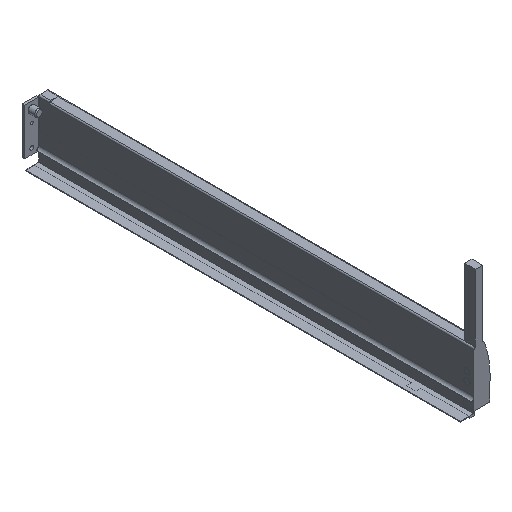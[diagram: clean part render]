
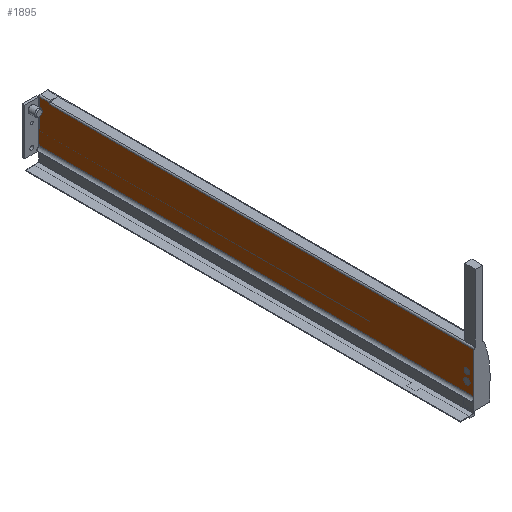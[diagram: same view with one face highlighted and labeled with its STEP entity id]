
A CAD part, isometric view. The second image highlights one B-rep face of the part: STEP entity #1895.
In plain terms, the highlighted planar face has unit normal (-1, 0, 0).
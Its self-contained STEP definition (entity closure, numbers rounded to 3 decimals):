
#25 = LINE ( 'NONE', #2200, #26 ) ;
#26 = VECTOR ( 'NONE', #2201, 1000. ) ;
#27 = EDGE_CURVE ( 'NONE', #2734, #2736, #1591, .T. ) ;
#32 = EDGE_CURVE ( 'NONE', #2732, #2735, #1597, .T. ) ;
#130 = EDGE_CURVE ( 'NONE', #2636, #2591, #1763, .T. ) ;
#178 = EDGE_CURVE ( 'NONE', #2565, #2591, #1855, .T. ) ;
#182 = EDGE_CURVE ( 'NONE', #2760, #2744, #1862, .T. ) ;
#183 = EDGE_CURVE ( 'NONE', #2760, #2565, #1864, .T. ) ;
#184 = EDGE_CURVE ( 'NONE', #2641, #2636, #1866, .T. ) ;
#185 = EDGE_CURVE ( 'NONE', #2641, #2744, #25, .T. ) ;
#186 = EDGE_CURVE ( 'NONE', #2736, #2734, #415, .T. ) ;
#187 = EDGE_CURVE ( 'NONE', #2735, #2732, #417, .T. ) ;
#264 = AXIS2_PLACEMENT_3D ( 'NONE', #2638, #2551, #2596 ) ;
#267 = AXIS2_PLACEMENT_3D ( 'NONE', #2686, #2692, #2640 ) ;
#298 = AXIS2_PLACEMENT_3D ( 'NONE', #2202, #2203, #2204 ) ;
#299 = AXIS2_PLACEMENT_3D ( 'NONE', #2205, #2206, #2207 ) ;
#347 = AXIS2_PLACEMENT_3D ( 'NONE', #2462, #2463, #2464 ) ;
#415 = CIRCLE ( 'NONE', #298, 4.1 ) ;
#417 = CIRCLE ( 'NONE', #299, 4.6 ) ;
#580 = FACE_OUTER_BOUND ( 'NONE', #1498, .T. ) ;
#581 = FACE_BOUND ( 'NONE', #1496, .T. ) ;
#582 = FACE_BOUND ( 'NONE', #1557, .T. ) ;
#856 = CARTESIAN_POINT ( 'NONE',  ( -21.5, 647., 5.395 ) ) ;
#865 = CARTESIAN_POINT ( 'NONE',  ( -21.5, 0., 5.395 ) ) ;
#890 = CARTESIAN_POINT ( 'NONE',  ( -21.5, 0., 66.06 ) ) ;
#891 = CARTESIAN_POINT ( 'NONE',  ( -21.5, 630.9, 66.06 ) ) ;
#939 = CARTESIAN_POINT ( 'NONE',  ( -21.5, 10.4, 24.6 ) ) ;
#941 = CARTESIAN_POINT ( 'NONE',  ( -21.5, 10.4, 37.1 ) ) ;
#942 = CARTESIAN_POINT ( 'NONE',  ( -21.5, 10.4, 15.4 ) ) ;
#943 = CARTESIAN_POINT ( 'NONE',  ( -21.5, 10.4, 28.9 ) ) ;
#951 = CARTESIAN_POINT ( 'NONE',  ( -21.5, 630.9, 68. ) ) ;
#967 = CARTESIAN_POINT ( 'NONE',  ( -21.5, 647., 68. ) ) ;
#1019 = ORIENTED_EDGE ( 'NONE', *, *, #184, .F. ) ;
#1023 = ORIENTED_EDGE ( 'NONE', *, *, #187, .T. ) ;
#1045 = ORIENTED_EDGE ( 'NONE', *, *, #32, .T. ) ;
#1075 = ORIENTED_EDGE ( 'NONE', *, *, #130, .F. ) ;
#1077 = ORIENTED_EDGE ( 'NONE', *, *, #182, .F. ) ;
#1123 = ORIENTED_EDGE ( 'NONE', *, *, #183, .T. ) ;
#1149 = ORIENTED_EDGE ( 'NONE', *, *, #185, .T. ) ;
#1198 = ORIENTED_EDGE ( 'NONE', *, *, #178, .T. ) ;
#1218 = ORIENTED_EDGE ( 'NONE', *, *, #186, .T. ) ;
#1274 = ORIENTED_EDGE ( 'NONE', *, *, #27, .T. ) ;
#1496 = EDGE_LOOP ( 'NONE', ( #1218, #1274 ) ) ;
#1498 = EDGE_LOOP ( 'NONE', ( #1077, #1123, #1198, #1075, #1019, #1149 ) ) ;
#1557 = EDGE_LOOP ( 'NONE', ( #1023, #1045 ) ) ;
#1591 = CIRCLE ( 'NONE', #264, 4.1 ) ;
#1597 = CIRCLE ( 'NONE', #267, 4.6 ) ;
#1763 = LINE ( 'NONE', #2084, #1765 ) ;
#1765 = VECTOR ( 'NONE', #2085, 1000. ) ;
#1855 = LINE ( 'NONE', #2185, #1856 ) ;
#1856 = VECTOR ( 'NONE', #2186, 1000. ) ;
#1862 = LINE ( 'NONE', #2194, #1863 ) ;
#1863 = VECTOR ( 'NONE', #2195, 1000. ) ;
#1864 = LINE ( 'NONE', #2196, #1865 ) ;
#1865 = VECTOR ( 'NONE', #2197, 1000. ) ;
#1866 = LINE ( 'NONE', #2198, #1867 ) ;
#1867 = VECTOR ( 'NONE', #2199, 1000. ) ;
#1895 = ADVANCED_FACE ( 'NONE', ( #580, #581, #582 ), #2461, .T. ) ;
#2084 = CARTESIAN_POINT ( 'NONE',  ( -21.5, 0., 68. ) ) ;
#2085 = DIRECTION ( 'NONE',  ( 0., 0., -1. ) ) ;
#2185 = CARTESIAN_POINT ( 'NONE',  ( -21.5, 647., 5.395 ) ) ;
#2186 = DIRECTION ( 'NONE',  ( 0., -1., 0. ) ) ;
#2194 = CARTESIAN_POINT ( 'NONE',  ( -21.5, 647., 68. ) ) ;
#2195 = DIRECTION ( 'NONE',  ( 0., -1., 0. ) ) ;
#2196 = CARTESIAN_POINT ( 'NONE',  ( -21.5, 647., 5.395 ) ) ;
#2197 = DIRECTION ( 'NONE',  ( 0., 0., -1. ) ) ;
#2198 = CARTESIAN_POINT ( 'NONE',  ( -21.5, 662.981, 66.06 ) ) ;
#2199 = DIRECTION ( 'NONE',  ( 0., -1., 0. ) ) ;
#2200 = CARTESIAN_POINT ( 'NONE',  ( -21.5, 630.9, 68. ) ) ;
#2201 = DIRECTION ( 'NONE',  ( 0., 0., 1. ) ) ;
#2202 = CARTESIAN_POINT ( 'NONE',  ( -21.5, 10.4, 33. ) ) ;
#2203 = DIRECTION ( 'NONE',  ( 1., 0., 0. ) ) ;
#2204 = DIRECTION ( 'NONE',  ( 0., 0., -1. ) ) ;
#2205 = CARTESIAN_POINT ( 'NONE',  ( -21.5, 10.4, 20. ) ) ;
#2206 = DIRECTION ( 'NONE',  ( 1., 0., 0. ) ) ;
#2207 = DIRECTION ( 'NONE',  ( 0., 0., -1. ) ) ;
#2461 = PLANE ( 'NONE',  #347 ) ;
#2462 = CARTESIAN_POINT ( 'NONE',  ( -21.5, 647., 68. ) ) ;
#2463 = DIRECTION ( 'NONE',  ( -1., 0., 0. ) ) ;
#2464 = DIRECTION ( 'NONE',  ( 0., 0., -1. ) ) ;
#2551 = DIRECTION ( 'NONE',  ( 1., 0., 0. ) ) ;
#2565 = VERTEX_POINT ( 'NONE', #856 ) ;
#2591 = VERTEX_POINT ( 'NONE', #865 ) ;
#2596 = DIRECTION ( 'NONE',  ( 0., 0., -1. ) ) ;
#2636 = VERTEX_POINT ( 'NONE', #890 ) ;
#2638 = CARTESIAN_POINT ( 'NONE',  ( -21.5, 10.4, 33. ) ) ;
#2640 = DIRECTION ( 'NONE',  ( 0., 0., -1. ) ) ;
#2641 = VERTEX_POINT ( 'NONE', #891 ) ;
#2686 = CARTESIAN_POINT ( 'NONE',  ( -21.5, 10.4, 20. ) ) ;
#2692 = DIRECTION ( 'NONE',  ( 1., 0., 0. ) ) ;
#2732 = VERTEX_POINT ( 'NONE', #939 ) ;
#2734 = VERTEX_POINT ( 'NONE', #941 ) ;
#2735 = VERTEX_POINT ( 'NONE', #942 ) ;
#2736 = VERTEX_POINT ( 'NONE', #943 ) ;
#2744 = VERTEX_POINT ( 'NONE', #951 ) ;
#2760 = VERTEX_POINT ( 'NONE', #967 ) ;
